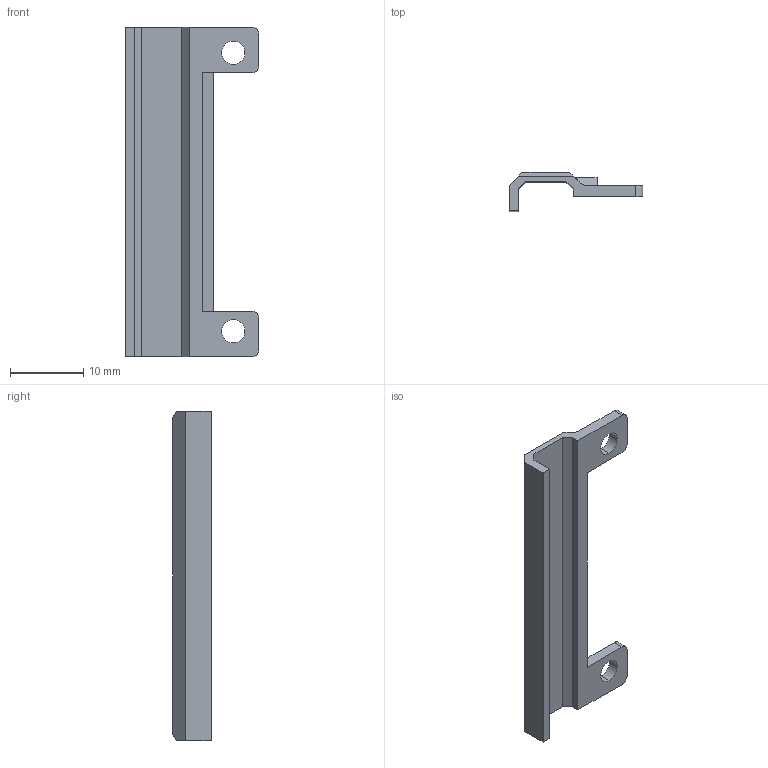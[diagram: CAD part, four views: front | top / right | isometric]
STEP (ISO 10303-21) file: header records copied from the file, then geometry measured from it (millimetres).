
FILE_DESCRIPTION (( 'STEP AP203' ), '1' );
FILE_NAME ('BR01_HIP_COVER_C.STEP');
FILE_SCHEMA (( 'CONFIG_CONTROL_DESIGN' ));
Length unit declared in the file: millimetre
Products named in the file (1): BR01_HIP_COVER_C
Bounding box: 18.25 x 5.25 x 45 mm (x, y, z)
Volume: 1048.8 mm3; surface area: 1839.7 mm2
Topology: 1 solids, 1 shells, 37 faces, 103 edges, 68 vertices
Faces by surface type: plane 27, cylinder 10
Entity records: 1264 total; most frequent: CARTESIAN_POINT 215, ORIENTED_EDGE 206, DIRECTION 195, EDGE_CURVE 103, VECTOR 83, LINE 83, VERTEX_POINT 68, AXIS2_PLACEMENT_3D 56
